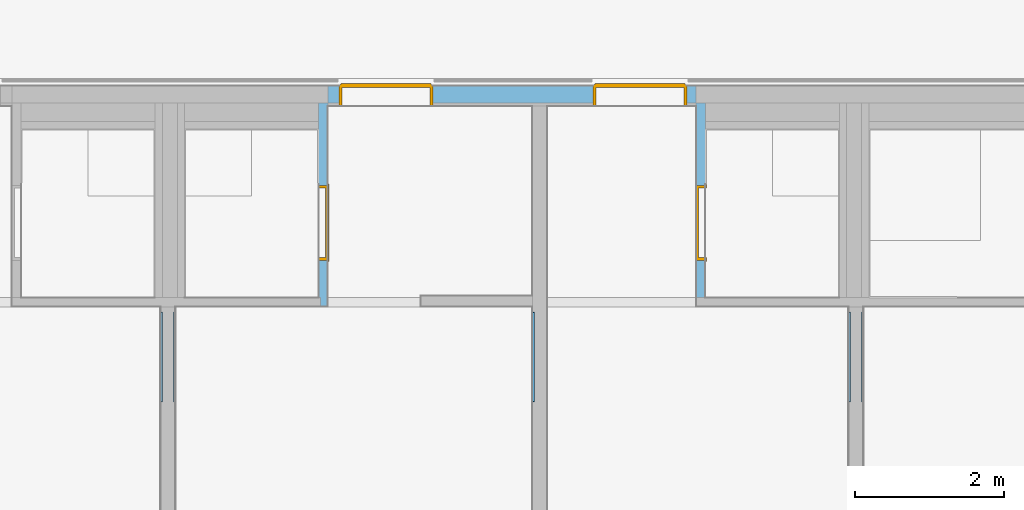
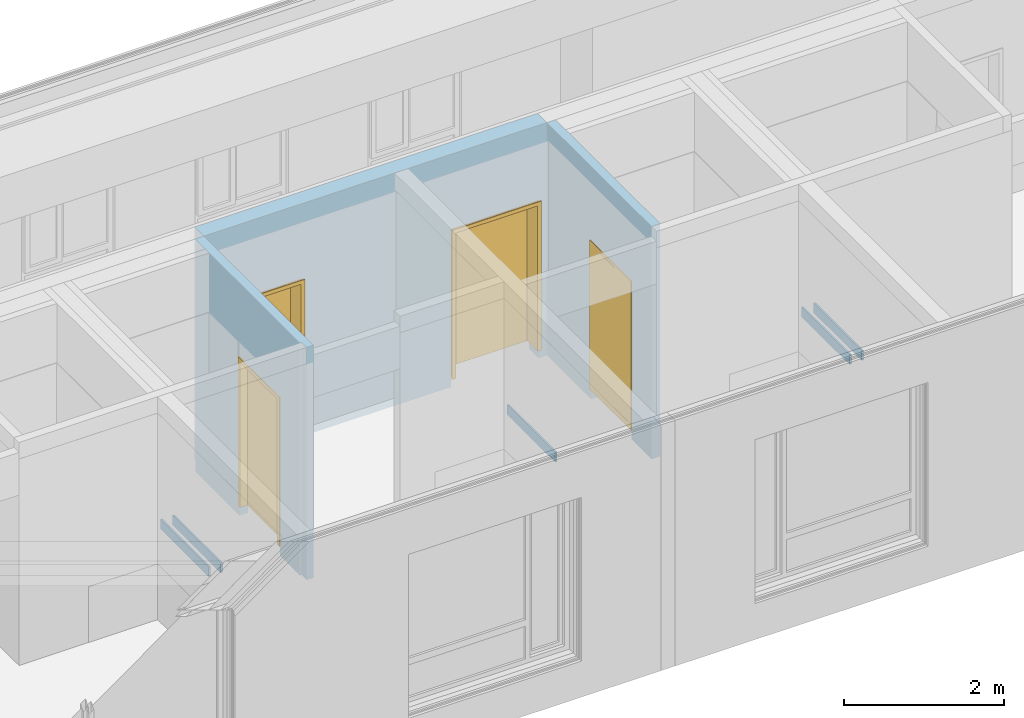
# One storey, part 117 of 222: 5 walls, 4 doors, 4 openings, plus 3 elements that do not belong to this part.
"""IFC4 building model written with IfcOpenShell, lengths in metres."""

from ifc_helpers import new_model, entity, si_unit, converted_unit, derived_unit, frame, frame_2d, origin, origin_with_axes, place, context, subcontext, project, spatial, polyline, rectangle, outline, extrude, faceted_brep, source, transform, mapped, material, type_object, element, fill, save


model = new_model("IFC4")

# Units and contexts
model_context = context("Model", 3, precision=1e-05, world=origin())
body_context = subcontext(model_context, "Body", "Model", "MODEL_VIEW")
ifc_project = project(units=[si_unit("LENGTHUNIT", "METRE"), si_unit("AREAUNIT", "SQUARE_METRE"), si_unit("VOLUMEUNIT", "CUBIC_METRE"), si_unit("MASSUNIT", "GRAM", prefix="KILO"), converted_unit("PLANEANGLEUNIT", "DEGREE", entity("IfcPlaneAngleMeasure", 0.0174532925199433), si_unit("PLANEANGLEUNIT", "RADIAN"), dimensions=[0, 0, 0, 0, 0, 0, 0]), derived_unit("THERMALTRANSMITTANCEUNIT", [(si_unit("POWERUNIT", "WATT"), 1), (si_unit("THERMODYNAMICTEMPERATUREUNIT", "KELVIN"), -1), (si_unit("LENGTHUNIT", "METRE"), -2)]), derived_unit("VOLUMETRICFLOWRATEUNIT", [(si_unit("LENGTHUNIT", "METRE"), 3), (converted_unit("TIMEUNIT", "hour", entity("IfcTimeMeasure", 3600.0), si_unit("TIMEUNIT", "SECOND"), dimensions=[0, 0, 1, 0, 0, 0, 0]), -1), (si_unit("LENGTHUNIT", "METRE"), -1)])], contexts=[model_context])

# Site, building, storey
site_placement = place(None, origin())
site = spatial("IfcSite", under=ifc_project, at=site_placement, Name="Psychiatrie Neubau Wunstorf", CompositionType="ELEMENT")
building_placement = place(site_placement, origin())
building = spatial("IfcBuilding", under=site, at=building_placement, Name="Neubau H2 Stationsgebäude", CompositionType="ELEMENT")
storey_placement = place(building_placement, frame((0.0, 0.0, 3.6)))
storey = spatial("IfcBuildingStorey", under=building, at=storey_placement, Name="H2 Ebene +1", CompositionType="ELEMENT", Elevation=3.6)

# Wall, opening, door
ifc_material_1 = material(Name="WI-LB")
wall_1_placement = place(storey_placement, frame((88.1000000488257, 5.1005, 0.0), z_axis=(0.0, 0.0, 1.0), x_axis=(0.0, -1.0, 0.0)))
wall_1 = element("IfcWall", 1, at=wall_1_placement, inside=storey, material=ifc_material_1, context=body_context, shape_type="SweptSolid", body=[
    extrude(rectangle(XDim=2.61499999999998, YDim=0.125, at=frame_2d((1.30749999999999, 0.0625), x_axis=(1.0, 0.0))), origin_with_axes(), (0.0, 0.0, 1.0), 3.55),
])
opening_1_placement = place(wall_1_placement, frame((2.11499999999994, 0.125, 0.0), z_axis=(0.0, -1.0, 0.0), x_axis=(0.0, 0.0, 1.0)))
opening_1 = element("IfcOpeningElement", 2, at=opening_1_placement, cuts=wall_1, Name="Türöffnung", ObjectType="Opening", context=body_context, shape_type="SweptSolid", body=[
    extrude(outline(polyline([(2.41, 1.01), (2.41, 0.0), (0.0, 0.0), (0.0, 1.01), (2.41, 1.01)])), origin_with_axes(), (0.0, 0.0, 1.0), 0.125),
])
ifc_material_2 = material(Name="TI-1F-UZ-D-N")
door_type_1 = type_object("IfcDoorType", Name="SMT", OperationType="SINGLE_SWING_RIGHT", ParameterTakesPrecedence=False, PredefinedType="DOOR")
shared_shape_1 = source(origin_with_axes(), body_context, "Body", "Brep", [
    faceted_brep([(1.05, 0.0125000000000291, 0.0), (1.05, 0.112500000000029, 0.0), (1.01, 0.112500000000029, 0.0), (1.01, 0.0125000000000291, 0.0), (1.05, 0.112500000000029, 3.55), (1.05, 0.0125000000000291, 3.55), (1.01, 0.0125000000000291, 3.55), (1.01, 0.112500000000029, 3.55)], [[[0, 1, 2, 3]], [[4, 5, 6, 7]], [[1, 0, 5, 4]], [[2, 1, 4, 7]], [[3, 2, 7, 6]], [[0, 3, 6, 5]]], orient=[[False], [False], [False], [False], [False], [False]]),
    faceted_brep([(0.0, 0.0125000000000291, 0.0), (0.0, 0.112500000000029, 0.0), (-0.0400000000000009, 0.112500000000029, 0.0), (-0.0400000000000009, 0.0125000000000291, 0.0), (0.0, 0.112500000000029, 3.55), (0.0, 0.0125000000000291, 3.55), (-0.0400000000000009, 0.0125000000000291, 3.55), (-0.0400000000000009, 0.112500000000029, 3.55)], [[[0, 1, 2, 3]], [[4, 5, 6, 7]], [[1, 0, 5, 4]], [[2, 1, 4, 7]], [[3, 2, 7, 6]], [[0, 3, 6, 5]]], orient=[[False], [False], [False], [False], [False], [False]]),
    faceted_brep([(1.01, 0.0125000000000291, 2.41), (1.01, 0.112500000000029, 2.41), (0.0, 0.112500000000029, 2.41), (0.0, 0.0125000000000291, 2.41), (1.01, 0.112500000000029, 2.45), (1.01, 0.0125000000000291, 2.45), (0.0, 0.0125000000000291, 2.45), (0.0, 0.112500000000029, 2.45)], [[[0, 1, 2, 3]], [[4, 5, 6, 7]], [[1, 0, 5, 4]], [[2, 1, 4, 7]], [[3, 2, 7, 6]], [[0, 3, 6, 5]]], orient=[[False], [False], [False], [False], [False], [False]]),
])
shared_shape_2 = source(origin_with_axes(), body_context, "Body", "Brep", [
    faceted_brep([(1.01, -0.0149999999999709, 2.41), (1.01, -0.0149999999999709, 0.15), (0.969999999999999, -0.0149999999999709, 0.15), (0.969999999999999, -0.0149999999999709, 2.41), (1.01, 0.140000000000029, 0.15), (1.01, 0.140000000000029, 2.41), (0.969999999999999, 0.140000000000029, 2.41), (0.969999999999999, 0.140000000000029, 0.15)], [[[0, 1, 2, 3]], [[4, 5, 6, 7]], [[1, 0, 5, 4]], [[2, 1, 4, 7]], [[3, 2, 7, 6]], [[0, 3, 6, 5]]], orient=[[False], [False], [False], [False], [False], [False]]),
    faceted_brep([(1.01, -0.0149999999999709, 2.425), (1.025, -0.0149999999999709, 2.425), (1.025, -0.0149999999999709, 0.15), (1.01, -0.0149999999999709, 0.15), (1.01, 0.0, 0.15), (1.025, 0.0, 0.15), (1.025, 0.0, 2.425), (1.01, 0.0, 2.425)], [[[0, 1, 2, 3]], [[4, 5, 6, 7]], [[3, 4, 7, 0]], [[2, 5, 4, 3]], [[1, 6, 5, 2]], [[0, 7, 6, 1]]], orient=[[False], [False], [False], [False], [False], [False]]),
    faceted_brep([(1.01, 0.125000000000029, 2.425), (1.025, 0.125000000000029, 2.425), (1.025, 0.125000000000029, 0.15), (1.01, 0.125000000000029, 0.15), (1.01, 0.140000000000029, 0.15), (1.025, 0.140000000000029, 0.15), (1.025, 0.140000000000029, 2.425), (1.01, 0.140000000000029, 2.425)], [[[0, 1, 2, 3]], [[4, 5, 6, 7]], [[3, 4, 7, 0]], [[2, 5, 4, 3]], [[1, 6, 5, 2]], [[0, 7, 6, 1]]], orient=[[False], [False], [False], [False], [False], [False]]),
    faceted_brep([(0.0399999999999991, -0.0149999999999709, 2.41), (0.0399999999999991, -0.0149999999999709, 0.15), (0.0, -0.0149999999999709, 0.15), (0.0, -0.0149999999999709, 2.41), (0.0399999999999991, 0.140000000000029, 0.15), (0.0399999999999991, 0.140000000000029, 2.41), (0.0, 0.140000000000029, 2.41), (0.0, 0.140000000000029, 0.15)], [[[0, 1, 2, 3]], [[4, 5, 6, 7]], [[1, 0, 5, 4]], [[2, 1, 4, 7]], [[3, 2, 7, 6]], [[0, 3, 6, 5]]], orient=[[False], [False], [False], [False], [False], [False]]),
    faceted_brep([(0.0, -0.0149999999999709, 2.425), (0.0, -0.0149999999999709, 0.15), (-0.0150000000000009, -0.0149999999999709, 0.15), (-0.0150000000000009, -0.0149999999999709, 2.425), (0.0, 0.0, 0.15), (0.0, 0.0, 2.425), (-0.0150000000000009, 0.0, 2.425), (-0.0150000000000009, 0.0, 0.15)], [[[0, 1, 2, 3]], [[4, 5, 6, 7]], [[1, 0, 5, 4]], [[2, 1, 4, 7]], [[3, 2, 7, 6]], [[0, 3, 6, 5]]], orient=[[False], [False], [False], [False], [False], [False]]),
    faceted_brep([(0.0, 0.125000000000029, 2.425), (0.0, 0.125000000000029, 0.15), (-0.0150000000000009, 0.125000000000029, 0.15), (-0.0150000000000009, 0.125000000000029, 2.425), (0.0, 0.140000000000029, 0.15), (0.0, 0.140000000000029, 2.425), (-0.0150000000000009, 0.140000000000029, 2.425), (-0.0150000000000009, 0.140000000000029, 0.15)], [[[0, 1, 2, 3]], [[4, 5, 6, 7]], [[1, 0, 5, 4]], [[2, 1, 4, 7]], [[3, 2, 7, 6]], [[0, 3, 6, 5]]], orient=[[False], [False], [False], [False], [False], [False]]),
    faceted_brep([(0.969999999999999, -0.0149999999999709, 2.41), (0.969999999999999, -0.0149999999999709, 2.37), (0.0399999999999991, -0.0149999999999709, 2.37), (0.0399999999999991, -0.0149999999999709, 2.41), (0.969999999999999, 0.140000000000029, 2.37), (0.969999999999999, 0.140000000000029, 2.41), (0.0399999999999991, 0.140000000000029, 2.41), (0.0399999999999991, 0.140000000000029, 2.37)], [[[0, 1, 2, 3]], [[4, 5, 6, 7]], [[1, 0, 5, 4]], [[2, 1, 4, 7]], [[3, 2, 7, 6]], [[0, 3, 6, 5]]], orient=[[False], [False], [False], [False], [False], [False]]),
    faceted_brep([(1.01, -0.0149999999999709, 2.425), (1.01, -0.0149999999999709, 2.41), (0.0, -0.0149999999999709, 2.41), (0.0, -0.0149999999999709, 2.425), (1.01, 0.0, 2.41), (1.01, 0.0, 2.425), (0.0, 0.0, 2.425), (0.0, 0.0, 2.41)], [[[0, 1, 2, 3]], [[4, 5, 6, 7]], [[1, 0, 5, 4]], [[2, 1, 4, 7]], [[3, 2, 7, 6]], [[0, 3, 6, 5]]], orient=[[False], [False], [False], [False], [False], [False]]),
    faceted_brep([(1.01, 0.125000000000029, 2.425), (1.01, 0.125000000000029, 2.41), (0.0, 0.125000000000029, 2.41), (0.0, 0.125000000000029, 2.425), (1.01, 0.140000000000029, 2.41), (1.01, 0.140000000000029, 2.425), (0.0, 0.140000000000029, 2.425), (0.0, 0.140000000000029, 2.41)], [[[0, 1, 2, 3]], [[4, 5, 6, 7]], [[1, 0, 5, 4]], [[2, 1, 4, 7]], [[3, 2, 7, 6]], [[0, 3, 6, 5]]], orient=[[False], [False], [False], [False], [False], [False]]),
    faceted_brep([(0.984999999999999, 0.0910000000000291, 2.385), (0.984999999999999, 0.0910000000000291, 0.15), (0.0249999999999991, 0.0910000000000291, 0.15), (0.0249999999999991, 0.0910000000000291, 2.385), (0.984999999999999, 0.141000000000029, 0.15), (0.984999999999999, 0.141000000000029, 2.385), (0.0249999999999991, 0.141000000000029, 2.385), (0.0249999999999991, 0.141000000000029, 0.15)], [[[0, 1, 2, 3]], [[4, 5, 6, 7]], [[1, 0, 5, 4]], [[2, 1, 4, 7]], [[3, 2, 7, 6]], [[0, 3, 6, 5]]], orient=[[False], [False], [False], [False], [False], [False]]),
])
door_1_placement = place(opening_1_placement, frame((0.0, 0.0, 0.0), z_axis=(1.0, 0.0, 0.0), x_axis=(0.0, 1.0, 0.0)))
door_1 = element("IfcDoor", 3, at=door_1_placement, inside=storey, type_object=door_type_1, material=ifc_material_2, Name="SMT", OverallHeight=2.41, OverallWidth=1.01, context=body_context, shape_type="MappedRepresentation", body=[
    mapped(shared_shape_1, transform((0.0, 0.0, 0.0), x_axis=(1.0, 0.0, 0.0), y_axis=(0.0, 1.0, 0.0), z_axis=(0.0, 0.0, 1.0), scale=1.0)),
    mapped(shared_shape_2, transform((0.0, 0.0, 0.0), x_axis=(1.0, 0.0, 0.0), y_axis=(0.0, 1.0, 0.0), z_axis=(0.0, 0.0, 1.0), scale=1.0)),
])
fill(opening_1, door_1)

ifc_material_3 = material(Name="WI-LB")
wall_2_placement = place(storey_placement, frame((83.0249999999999, 5.1005, 0.0), z_axis=(0.0, 0.0, 1.0), x_axis=(0.0, -1.0, 0.0)))
wall_2 = element("IfcWall", 4, at=wall_2_placement, inside=storey, material=ifc_material_3, context=body_context, shape_type="SweptSolid", body=[
    extrude(outline(polyline([(-2.73999999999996, 0.0), (-0.125, 0.0), (-0.125, 0.0250000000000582), (0.0, 0.0250000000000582), (0.0, 0.125), (-2.73999999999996, 0.125), (-2.73999999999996, 0.0)])), frame((2.73999999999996, 0.0, 0.0), z_axis=(0.0, 0.0, 1.0), x_axis=(1.0, 0.0, 0.0)), (0.0, 0.0, 1.0), 3.55),
])
opening_2_placement = place(wall_2_placement, frame((1.10499999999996, 0.0, 0.0), z_axis=(0.0, 1.0, 0.0), x_axis=(0.0, 0.0, 1.0)))
opening_2 = element("IfcOpeningElement", 5, at=opening_2_placement, cuts=wall_2, Name="Türöffnung", ObjectType="Opening", context=body_context, shape_type="SweptSolid", body=[
    extrude(outline(polyline([(2.41, 1.01), (2.41, 0.0), (0.0, 0.0), (0.0, 1.01), (2.41, 1.01)])), origin_with_axes(), (0.0, 0.0, 1.0), 0.125),
])
ifc_material_4 = material(Name="TI-1F-UZ-D-N")
door_type_2 = type_object("IfcDoorType", Name="SMT", OperationType="SINGLE_SWING_RIGHT", ParameterTakesPrecedence=False, PredefinedType="DOOR")
shared_shape_3 = source(origin_with_axes(), body_context, "Body", "Brep", [
    faceted_brep([(1.05, 0.0124999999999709, 0.0), (1.05, 0.112499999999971, 0.0), (1.01, 0.112499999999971, 0.0), (1.01, 0.0124999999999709, 0.0), (1.05, 0.112499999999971, 3.55), (1.05, 0.0124999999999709, 3.55), (1.01, 0.0124999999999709, 3.55), (1.01, 0.112499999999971, 3.55)], [[[0, 1, 2, 3]], [[4, 5, 6, 7]], [[1, 0, 5, 4]], [[2, 1, 4, 7]], [[3, 2, 7, 6]], [[0, 3, 6, 5]]], orient=[[False], [False], [False], [False], [False], [False]]),
    faceted_brep([(0.0, 0.0124999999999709, 0.0), (0.0, 0.112499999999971, 0.0), (-0.0399999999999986, 0.112499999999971, 0.0), (-0.0399999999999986, 0.0124999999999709, 0.0), (0.0, 0.112499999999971, 3.55), (0.0, 0.0124999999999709, 3.55), (-0.0399999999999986, 0.0124999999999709, 3.55), (-0.0399999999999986, 0.112499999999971, 3.55)], [[[0, 1, 2, 3]], [[4, 5, 6, 7]], [[1, 0, 5, 4]], [[2, 1, 4, 7]], [[3, 2, 7, 6]], [[0, 3, 6, 5]]], orient=[[False], [False], [False], [False], [False], [False]]),
    faceted_brep([(1.01, 0.0124999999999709, 2.41), (1.01, 0.112499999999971, 2.41), (0.0, 0.112499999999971, 2.41), (0.0, 0.0124999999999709, 2.41), (1.01, 0.112499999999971, 2.45), (1.01, 0.0124999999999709, 2.45), (0.0, 0.0124999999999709, 2.45), (0.0, 0.112499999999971, 2.45)], [[[0, 1, 2, 3]], [[4, 5, 6, 7]], [[1, 0, 5, 4]], [[2, 1, 4, 7]], [[3, 2, 7, 6]], [[0, 3, 6, 5]]], orient=[[False], [False], [False], [False], [False], [False]]),
])
shared_shape_4 = source(origin_with_axes(), body_context, "Body", "Brep", [
    faceted_brep([(0.0, -0.0150000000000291, 2.41), (0.0400000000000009, -0.0150000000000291, 2.41), (0.0400000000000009, -0.0150000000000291, 0.15), (0.0, -0.0150000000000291, 0.15), (0.0, 0.139999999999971, 0.15), (0.0400000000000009, 0.139999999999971, 0.15), (0.0400000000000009, 0.139999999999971, 2.41), (0.0, 0.139999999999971, 2.41)], [[[0, 1, 2, 3]], [[4, 5, 6, 7]], [[3, 4, 7, 0]], [[2, 5, 4, 3]], [[1, 6, 5, 2]], [[0, 7, 6, 1]]], orient=[[False], [False], [False], [False], [False], [False]]),
    faceted_brep([(0.0, -0.0150000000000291, 2.425), (0.0, -0.0150000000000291, 0.15), (-0.0149999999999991, -0.0150000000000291, 0.15), (-0.0149999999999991, -0.0150000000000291, 2.425), (0.0, 0.0, 0.15), (0.0, 0.0, 2.425), (-0.0149999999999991, 0.0, 2.425), (-0.0149999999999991, 0.0, 0.15)], [[[0, 1, 2, 3]], [[4, 5, 6, 7]], [[1, 0, 5, 4]], [[2, 1, 4, 7]], [[3, 2, 7, 6]], [[0, 3, 6, 5]]], orient=[[False], [False], [False], [False], [False], [False]]),
    faceted_brep([(0.0, 0.124999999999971, 2.425), (0.0, 0.124999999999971, 0.15), (-0.0149999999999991, 0.124999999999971, 0.15), (-0.0149999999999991, 0.124999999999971, 2.425), (0.0, 0.139999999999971, 0.15), (0.0, 0.139999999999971, 2.425), (-0.0149999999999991, 0.139999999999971, 2.425), (-0.0149999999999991, 0.139999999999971, 0.15)], [[[0, 1, 2, 3]], [[4, 5, 6, 7]], [[1, 0, 5, 4]], [[2, 1, 4, 7]], [[3, 2, 7, 6]], [[0, 3, 6, 5]]], orient=[[False], [False], [False], [False], [False], [False]]),
    faceted_brep([(0.970000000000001, -0.0150000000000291, 2.41), (1.01, -0.0150000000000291, 2.41), (1.01, -0.0150000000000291, 0.15), (0.970000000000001, -0.0150000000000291, 0.15), (0.970000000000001, 0.139999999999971, 0.15), (1.01, 0.139999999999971, 0.15), (1.01, 0.139999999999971, 2.41), (0.970000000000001, 0.139999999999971, 2.41)], [[[0, 1, 2, 3]], [[4, 5, 6, 7]], [[3, 4, 7, 0]], [[2, 5, 4, 3]], [[1, 6, 5, 2]], [[0, 7, 6, 1]]], orient=[[False], [False], [False], [False], [False], [False]]),
    faceted_brep([(1.01, -0.0150000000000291, 2.425), (1.025, -0.0150000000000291, 2.425), (1.025, -0.0150000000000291, 0.15), (1.01, -0.0150000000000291, 0.15), (1.01, 0.0, 0.15), (1.025, 0.0, 0.15), (1.025, 0.0, 2.425), (1.01, 0.0, 2.425)], [[[0, 1, 2, 3]], [[4, 5, 6, 7]], [[3, 4, 7, 0]], [[2, 5, 4, 3]], [[1, 6, 5, 2]], [[0, 7, 6, 1]]], orient=[[False], [False], [False], [False], [False], [False]]),
    faceted_brep([(1.01, 0.124999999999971, 2.425), (1.025, 0.124999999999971, 2.425), (1.025, 0.124999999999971, 0.15), (1.01, 0.124999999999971, 0.15), (1.01, 0.139999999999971, 0.15), (1.025, 0.139999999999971, 0.15), (1.025, 0.139999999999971, 2.425), (1.01, 0.139999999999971, 2.425)], [[[0, 1, 2, 3]], [[4, 5, 6, 7]], [[3, 4, 7, 0]], [[2, 5, 4, 3]], [[1, 6, 5, 2]], [[0, 7, 6, 1]]], orient=[[False], [False], [False], [False], [False], [False]]),
    faceted_brep([(0.0400000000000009, -0.0150000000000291, 2.41), (0.970000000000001, -0.0150000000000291, 2.41), (0.970000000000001, -0.0150000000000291, 2.37), (0.0400000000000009, -0.0150000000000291, 2.37), (0.0400000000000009, 0.139999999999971, 2.37), (0.970000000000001, 0.139999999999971, 2.37), (0.970000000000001, 0.139999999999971, 2.41), (0.0400000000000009, 0.139999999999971, 2.41)], [[[0, 1, 2, 3]], [[4, 5, 6, 7]], [[3, 4, 7, 0]], [[2, 5, 4, 3]], [[1, 6, 5, 2]], [[0, 7, 6, 1]]], orient=[[False], [False], [False], [False], [False], [False]]),
    faceted_brep([(0.0, -0.0150000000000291, 2.425), (1.01, -0.0150000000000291, 2.425), (1.01, -0.0150000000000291, 2.41), (0.0, -0.0150000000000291, 2.41), (0.0, 0.0, 2.41), (1.01, 0.0, 2.41), (1.01, 0.0, 2.425), (0.0, 0.0, 2.425)], [[[0, 1, 2, 3]], [[4, 5, 6, 7]], [[3, 4, 7, 0]], [[2, 5, 4, 3]], [[1, 6, 5, 2]], [[0, 7, 6, 1]]], orient=[[False], [False], [False], [False], [False], [False]]),
    faceted_brep([(0.0, 0.124999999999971, 2.425), (1.01, 0.124999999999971, 2.425), (1.01, 0.124999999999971, 2.41), (0.0, 0.124999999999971, 2.41), (0.0, 0.139999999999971, 2.41), (1.01, 0.139999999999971, 2.41), (1.01, 0.139999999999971, 2.425), (0.0, 0.139999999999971, 2.425)], [[[0, 1, 2, 3]], [[4, 5, 6, 7]], [[3, 4, 7, 0]], [[2, 5, 4, 3]], [[1, 6, 5, 2]], [[0, 7, 6, 1]]], orient=[[False], [False], [False], [False], [False], [False]]),
    faceted_brep([(0.0250000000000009, 0.0909999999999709, 2.385), (0.985000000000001, 0.0909999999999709, 2.385), (0.985000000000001, 0.0909999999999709, 0.15), (0.0250000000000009, 0.0909999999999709, 0.15), (0.0250000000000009, 0.140999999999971, 0.15), (0.985000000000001, 0.140999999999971, 0.15), (0.985000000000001, 0.140999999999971, 2.385), (0.0250000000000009, 0.140999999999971, 2.385)], [[[0, 1, 2, 3]], [[4, 5, 6, 7]], [[3, 4, 7, 0]], [[2, 5, 4, 3]], [[1, 6, 5, 2]], [[0, 7, 6, 1]]], orient=[[False], [False], [False], [False], [False], [False]]),
])
door_2_placement = place(opening_2_placement, frame((0.0, 0.0, 0.0), z_axis=(1.0, 0.0, 0.0), x_axis=(0.0, 1.0, 0.0)))
door_2 = element("IfcDoor", 6, at=door_2_placement, inside=storey, type_object=door_type_2, material=ifc_material_4, Name="SMT", OverallHeight=2.41, OverallWidth=1.01, context=body_context, shape_type="MappedRepresentation", body=[
    mapped(shared_shape_3, transform((0.0, 0.0, 0.0), x_axis=(1.0, 0.0, 0.0), y_axis=(0.0, 1.0, 0.0), z_axis=(0.0, 0.0, 1.0), scale=1.0)),
    mapped(shared_shape_4, transform((0.0, 0.0, 0.0), x_axis=(1.0, 0.0, 0.0), y_axis=(0.0, 1.0, 0.0), z_axis=(0.0, 0.0, 1.0), scale=1.0)),
])
fill(opening_2, door_2)

# Wall, openings, doors
ifc_material_5 = material(Name="WI-HW 60")
wall_3_placement = place(storey_placement, frame((88.1000000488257, 5.33250000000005, 0.0), z_axis=(0.0, 0.0, 1.0), x_axis=(-1.0, 0.0, 0.0)))
wall_3 = element("IfcWall", 7, at=wall_3_placement, inside=storey, material=ifc_material_5, context=body_context, shape_type="SweptSolid", body=[
    extrude(rectangle(XDim=4.95000004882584, YDim=0.232, at=frame_2d((2.47500002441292, 0.116), x_axis=(1.0, 0.0))), origin_with_axes(), (0.0, 0.0, 1.0), 3.55),
])
opening_3_placement = place(wall_3_placement, frame((3.54000004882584, 0.0, 0.0), z_axis=(0.0, 1.0, 0.0), x_axis=(0.0, 0.0, 1.0)))
opening_3 = element("IfcOpeningElement", 8, at=opening_3_placement, cuts=wall_3, Name="Türöffnung", ObjectType="Opening", context=body_context, shape_type="SweptSolid", body=[
    extrude(outline(polyline([(2.41, 1.26), (2.41, 0.0), (0.0, 0.0), (0.0, 1.26), (2.41, 1.26)])), origin_with_axes(), (0.0, 0.0, 1.0), 0.232),
])
opening_4_placement = place(wall_3_placement, frame((0.125, 0.0, 0.0), z_axis=(0.0, 1.0, 0.0), x_axis=(0.0, 0.0, 1.0)))
opening_4 = element("IfcOpeningElement", 9, at=opening_4_placement, cuts=wall_3, Name="Türöffnung", ObjectType="Opening", context=body_context, shape_type="SweptSolid", body=[
    extrude(outline(polyline([(2.41, 1.26), (2.41, 0.0), (0.0, 0.0), (0.0, 1.26), (2.41, 1.26)])), origin_with_axes(), (0.0, 0.0, 1.0), 0.232),
])
ifc_material_6 = material(Name="TI-2F-UZ-D")
door_type_3 = type_object("IfcDoorType", Name="SMT", OperationType="DOUBLE_DOOR_SINGLE_SWING", ParameterTakesPrecedence=False, PredefinedType="DOOR")
shared_shape_5 = source(origin_with_axes(), body_context, "Body", "Brep", [
    faceted_brep([(1.26, -0.015, 2.41), (1.26, -0.015, 0.15), (1.22, -0.015, 0.15), (1.22, -0.015, 2.41), (1.26, 0.287, 0.15), (1.26, 0.287, 2.41), (1.22, 0.287, 2.41), (1.22, 0.287, 0.15)], [[[0, 1, 2, 3]], [[4, 5, 6, 7]], [[1, 0, 5, 4]], [[2, 1, 4, 7]], [[3, 2, 7, 6]], [[0, 3, 6, 5]]], orient=[[False], [False], [False], [False], [False], [False]]),
    faceted_brep([(1.26, -0.015, 2.425), (1.275, -0.015, 2.425), (1.275, -0.015, 0.15), (1.26, -0.015, 0.15), (1.26, 0.0, 0.15), (1.275, 0.0, 0.15), (1.275, 0.0, 2.425), (1.26, 0.0, 2.425)], [[[0, 1, 2, 3]], [[4, 5, 6, 7]], [[3, 4, 7, 0]], [[2, 5, 4, 3]], [[1, 6, 5, 2]], [[0, 7, 6, 1]]], orient=[[False], [False], [False], [False], [False], [False]]),
    faceted_brep([(1.26, 0.272, 2.425), (1.275, 0.272, 2.425), (1.275, 0.272, 0.15), (1.26, 0.272, 0.15), (1.26, 0.287, 0.15), (1.275, 0.287, 0.15), (1.275, 0.287, 2.425), (1.26, 0.287, 2.425)], [[[0, 1, 2, 3]], [[4, 5, 6, 7]], [[3, 4, 7, 0]], [[2, 5, 4, 3]], [[1, 6, 5, 2]], [[0, 7, 6, 1]]], orient=[[False], [False], [False], [False], [False], [False]]),
    faceted_brep([(0.04, -0.015, 2.41), (0.04, -0.015, 0.15), (0.0, -0.015, 0.15), (0.0, -0.015, 2.41), (0.04, 0.287, 0.15), (0.04, 0.287, 2.41), (0.0, 0.287, 2.41), (0.0, 0.287, 0.15)], [[[0, 1, 2, 3]], [[4, 5, 6, 7]], [[1, 0, 5, 4]], [[2, 1, 4, 7]], [[3, 2, 7, 6]], [[0, 3, 6, 5]]], orient=[[False], [False], [False], [False], [False], [False]]),
    faceted_brep([(0.0, -0.015, 2.425), (0.0, -0.015, 0.15), (-0.015, -0.015, 0.15), (-0.015, -0.015, 2.425), (0.0, 0.0, 0.15), (0.0, 0.0, 2.425), (-0.015, 0.0, 2.425), (-0.015, 0.0, 0.15)], [[[0, 1, 2, 3]], [[4, 5, 6, 7]], [[1, 0, 5, 4]], [[2, 1, 4, 7]], [[3, 2, 7, 6]], [[0, 3, 6, 5]]], orient=[[False], [False], [False], [False], [False], [False]]),
    faceted_brep([(0.0, 0.272, 2.425), (0.0, 0.272, 0.15), (-0.015, 0.272, 0.15), (-0.015, 0.272, 2.425), (0.0, 0.287, 0.15), (0.0, 0.287, 2.425), (-0.015, 0.287, 2.425), (-0.015, 0.287, 0.15)], [[[0, 1, 2, 3]], [[4, 5, 6, 7]], [[1, 0, 5, 4]], [[2, 1, 4, 7]], [[3, 2, 7, 6]], [[0, 3, 6, 5]]], orient=[[False], [False], [False], [False], [False], [False]]),
    faceted_brep([(1.22, -0.015, 2.41), (1.22, -0.015, 2.37), (0.04, -0.015, 2.37), (0.04, -0.015, 2.41), (1.22, 0.287, 2.37), (1.22, 0.287, 2.41), (0.04, 0.287, 2.41), (0.04, 0.287, 2.37)], [[[0, 1, 2, 3]], [[4, 5, 6, 7]], [[1, 0, 5, 4]], [[2, 1, 4, 7]], [[3, 2, 7, 6]], [[0, 3, 6, 5]]], orient=[[False], [False], [False], [False], [False], [False]]),
    faceted_brep([(1.26, -0.015, 2.425), (1.26, -0.015, 2.41), (0.0, -0.015, 2.41), (0.0, -0.015, 2.425), (1.26, 0.0, 2.41), (1.26, 0.0, 2.425), (0.0, 0.0, 2.425), (0.0, 0.0, 2.41)], [[[0, 1, 2, 3]], [[4, 5, 6, 7]], [[1, 0, 5, 4]], [[2, 1, 4, 7]], [[3, 2, 7, 6]], [[0, 3, 6, 5]]], orient=[[False], [False], [False], [False], [False], [False]]),
    faceted_brep([(1.26, 0.272, 2.425), (1.26, 0.272, 2.41), (0.0, 0.272, 2.41), (0.0, 0.272, 2.425), (1.26, 0.287, 2.41), (1.26, 0.287, 2.425), (0.0, 0.287, 2.425), (0.0, 0.287, 2.41)], [[[0, 1, 2, 3]], [[4, 5, 6, 7]], [[1, 0, 5, 4]], [[2, 1, 4, 7]], [[3, 2, 7, 6]], [[0, 3, 6, 5]]], orient=[[False], [False], [False], [False], [False], [False]]),
    faceted_brep([(1.235, 0.252, 2.385), (1.235, 0.252, 0.15), (0.335, 0.252, 0.15), (0.335, 0.252, 2.385), (1.235, 0.302, 0.15), (1.235, 0.302, 2.385), (0.335, 0.302, 2.385), (0.335, 0.302, 0.15)], [[[0, 1, 2, 3]], [[4, 5, 6, 7]], [[1, 0, 5, 4]], [[2, 1, 4, 7]], [[3, 2, 7, 6]], [[0, 3, 6, 5]]], orient=[[False], [False], [False], [False], [False], [False]]),
    faceted_brep([(0.334, 0.252, 2.385), (0.334, 0.252, 0.15), (0.025, 0.252, 0.15), (0.025, 0.252, 2.385), (0.334, 0.302, 0.15), (0.334, 0.302, 2.385), (0.025, 0.302, 2.385), (0.025, 0.302, 0.15)], [[[0, 1, 2, 3]], [[4, 5, 6, 7]], [[1, 0, 5, 4]], [[2, 1, 4, 7]], [[3, 2, 7, 6]], [[0, 3, 6, 5]]], orient=[[False], [False], [False], [False], [False], [False]]),
])
door_3_placement = place(opening_3_placement, frame((0.0, 1.26, 0.272), z_axis=(1.0, 0.0, 0.0), x_axis=(0.0, -1.0, 0.0)))
door_3 = element("IfcDoor", 10, at=door_3_placement, inside=storey, type_object=door_type_3, material=ifc_material_6, Name="SMT", OverallHeight=2.41, OverallWidth=1.26, context=body_context, shape_type="MappedRepresentation", body=[
    mapped(shared_shape_5, transform((0.0, 0.0, 0.0), x_axis=(1.0, 0.0, 0.0), y_axis=(0.0, 1.0, 0.0), z_axis=(0.0, 0.0, 1.0), scale=1.0)),
])
fill(opening_3, door_3)
ifc_material_7 = material(Name="TI-2F-UZ-D")
door_type_4 = type_object("IfcDoorType", Name="SMT", OperationType="DOUBLE_DOOR_SINGLE_SWING", ParameterTakesPrecedence=False, PredefinedType="DOOR")
shared_shape_6 = source(origin_with_axes(), body_context, "Body", "Brep", [
    faceted_brep([(0.0, -0.0150000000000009, 2.41), (0.04, -0.0150000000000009, 2.41), (0.04, -0.015, 0.15), (0.0, -0.015, 0.15), (0.0, 0.287, 0.15), (0.04, 0.287, 0.15), (0.04, 0.287, 2.41), (0.0, 0.287, 2.41)], [[[0, 1, 2, 3]], [[4, 5, 6, 7]], [[3, 4, 7, 0]], [[2, 5, 4, 3]], [[1, 6, 5, 2]], [[0, 7, 6, 1]]], orient=[[False], [False], [False], [False], [False], [False]]),
    faceted_brep([(0.0, -0.0150000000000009, 2.425), (0.0, -0.015, 0.15), (-0.015, -0.015, 0.15), (-0.015, -0.0150000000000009, 2.425), (0.0, 0.0, 0.15), (0.0, 0.0, 2.425), (-0.015, 0.0, 2.425), (-0.015, 0.0, 0.15)], [[[0, 1, 2, 3]], [[4, 5, 6, 7]], [[1, 0, 5, 4]], [[2, 1, 4, 7]], [[3, 2, 7, 6]], [[0, 3, 6, 5]]], orient=[[False], [False], [False], [False], [False], [False]]),
    faceted_brep([(0.0, 0.272, 2.425), (0.0, 0.272, 0.15), (-0.015, 0.272, 0.15), (-0.015, 0.272, 2.425), (0.0, 0.287, 0.15), (0.0, 0.287, 2.425), (-0.015, 0.287, 2.425), (-0.015, 0.287, 0.15)], [[[0, 1, 2, 3]], [[4, 5, 6, 7]], [[1, 0, 5, 4]], [[2, 1, 4, 7]], [[3, 2, 7, 6]], [[0, 3, 6, 5]]], orient=[[False], [False], [False], [False], [False], [False]]),
    faceted_brep([(1.22, -0.0150000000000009, 2.41), (1.26, -0.0150000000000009, 2.41), (1.26, -0.0150000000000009, 0.15), (1.22, -0.0150000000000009, 0.15), (1.22, 0.287, 0.15), (1.26, 0.287, 0.15), (1.26, 0.287, 2.41), (1.22, 0.287, 2.41)], [[[0, 1, 2, 3]], [[4, 5, 6, 7]], [[3, 4, 7, 0]], [[2, 5, 4, 3]], [[1, 6, 5, 2]], [[0, 7, 6, 1]]], orient=[[False], [False], [False], [False], [False], [False]]),
    faceted_brep([(1.26, -0.0150000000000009, 2.425), (1.275, -0.0150000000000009, 2.425), (1.275, -0.0150000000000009, 0.15), (1.26, -0.0150000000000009, 0.15), (1.26, 0.0, 0.15), (1.275, 0.0, 0.15), (1.275, 0.0, 2.425), (1.26, 0.0, 2.425)], [[[0, 1, 2, 3]], [[4, 5, 6, 7]], [[3, 4, 7, 0]], [[2, 5, 4, 3]], [[1, 6, 5, 2]], [[0, 7, 6, 1]]], orient=[[False], [False], [False], [False], [False], [False]]),
    faceted_brep([(1.26, 0.271999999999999, 2.425), (1.275, 0.271999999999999, 2.425), (1.275, 0.272, 0.15), (1.26, 0.272, 0.15), (1.26, 0.287, 0.15), (1.275, 0.287, 0.15), (1.275, 0.286999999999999, 2.425), (1.26, 0.286999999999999, 2.425)], [[[0, 1, 2, 3]], [[4, 5, 6, 7]], [[3, 4, 7, 0]], [[2, 5, 4, 3]], [[1, 6, 5, 2]], [[0, 7, 6, 1]]], orient=[[False], [False], [False], [False], [False], [False]]),
    faceted_brep([(0.04, -0.0150000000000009, 2.41), (1.22, -0.0150000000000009, 2.41), (1.22, -0.0150000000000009, 2.37), (0.04, -0.0150000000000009, 2.37), (0.04, 0.287, 2.37), (1.22, 0.287, 2.37), (1.22, 0.287, 2.41), (0.04, 0.287, 2.41)], [[[0, 1, 2, 3]], [[4, 5, 6, 7]], [[3, 4, 7, 0]], [[2, 5, 4, 3]], [[1, 6, 5, 2]], [[0, 7, 6, 1]]], orient=[[False], [False], [False], [False], [False], [False]]),
    faceted_brep([(0.0, -0.0150000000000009, 2.425), (1.26, -0.0150000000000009, 2.425), (1.26, -0.0150000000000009, 2.41), (0.0, -0.0150000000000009, 2.41), (0.0, 0.0, 2.41), (1.26, 0.0, 2.41), (1.26, 0.0, 2.425), (0.0, 0.0, 2.425)], [[[0, 1, 2, 3]], [[4, 5, 6, 7]], [[3, 4, 7, 0]], [[2, 5, 4, 3]], [[1, 6, 5, 2]], [[0, 7, 6, 1]]], orient=[[False], [False], [False], [False], [False], [False]]),
    faceted_brep([(0.0, 0.272, 2.425), (1.26, 0.271999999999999, 2.425), (1.26, 0.271999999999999, 2.41), (0.0, 0.272, 2.41), (0.0, 0.287, 2.41), (1.26, 0.286999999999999, 2.41), (1.26, 0.286999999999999, 2.425), (0.0, 0.287, 2.425)], [[[0, 1, 2, 3]], [[4, 5, 6, 7]], [[3, 4, 7, 0]], [[2, 5, 4, 3]], [[1, 6, 5, 2]], [[0, 7, 6, 1]]], orient=[[False], [False], [False], [False], [False], [False]]),
    faceted_brep([(0.025, 0.252, 2.385), (0.925, 0.252, 2.385), (0.925, 0.252, 0.15), (0.025, 0.252, 0.15), (0.025, 0.302, 0.15), (0.925, 0.302, 0.15), (0.925, 0.302, 2.385), (0.025, 0.302, 2.385)], [[[0, 1, 2, 3]], [[4, 5, 6, 7]], [[3, 4, 7, 0]], [[2, 5, 4, 3]], [[1, 6, 5, 2]], [[0, 7, 6, 1]]], orient=[[False], [False], [False], [False], [False], [False]]),
    faceted_brep([(0.926, 0.252, 2.385), (1.235, 0.252, 2.385), (1.235, 0.252, 0.15), (0.926, 0.252, 0.15), (0.926, 0.302, 0.15), (1.235, 0.302, 0.15), (1.235, 0.302, 2.385), (0.926, 0.302, 2.385)], [[[0, 1, 2, 3]], [[4, 5, 6, 7]], [[3, 4, 7, 0]], [[2, 5, 4, 3]], [[1, 6, 5, 2]], [[0, 7, 6, 1]]], orient=[[False], [False], [False], [False], [False], [False]]),
])
door_4_placement = place(opening_4_placement, frame((0.0, 1.26, 0.272), z_axis=(1.0, 0.0, 0.0), x_axis=(0.0, -1.0, 0.0)))
door_4 = element("IfcDoor", 11, at=door_4_placement, inside=storey, type_object=door_type_4, material=ifc_material_7, Name="SMT", OverallHeight=2.41, OverallWidth=1.26, context=body_context, shape_type="MappedRepresentation", body=[
    mapped(shared_shape_6, transform((0.0, 0.0, 0.0), x_axis=(1.0, 0.0, 0.0), y_axis=(0.0, 1.0, 0.0), z_axis=(0.0, 0.0, 1.0), scale=1.0)),
])
fill(opening_4, door_4)

# Walls
for number, where, name in (
    (12, (81.075, 1.08720000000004, 1.575), "WV 1.1"),
    (13, (80.9, 1.08720000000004, 1.575), "WV 1.1"),
    (14, (85.9000000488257, 1.08720000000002, 1.575), "WV 1.1"),
    (15, (90.3250000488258, 1.08720000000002, 1.575), "WV 1.1"),
    (16, (90.1500000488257, 1.08720000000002, 1.575), "WV 1.1"),
):
    element("IfcWall", number, at=place(storey_placement, frame(where)), inside=storey, Name=name, context=body_context, shape_type="Brep", body=[
        faceted_brep([(0.025, 1.2, 0.0), (0.0, 1.2, 0.0), (0.0, 0.0, 0.0), (0.025, 0.0, 0.0), (0.0, 1.2, 0.15), (0.025, 1.2, 0.15), (0.025, 0.0, 0.15), (0.0, 0.0, 0.15)], [[[0, 1, 2, 3]], [[4, 5, 6, 7]], [[1, 0, 5, 4]], [[2, 1, 4, 7]], [[3, 2, 7, 6]], [[0, 3, 6, 5]]], orient=[[False], [False], [False], [False], [False], [False]]),
    ])

save(model, "model.ifc")
